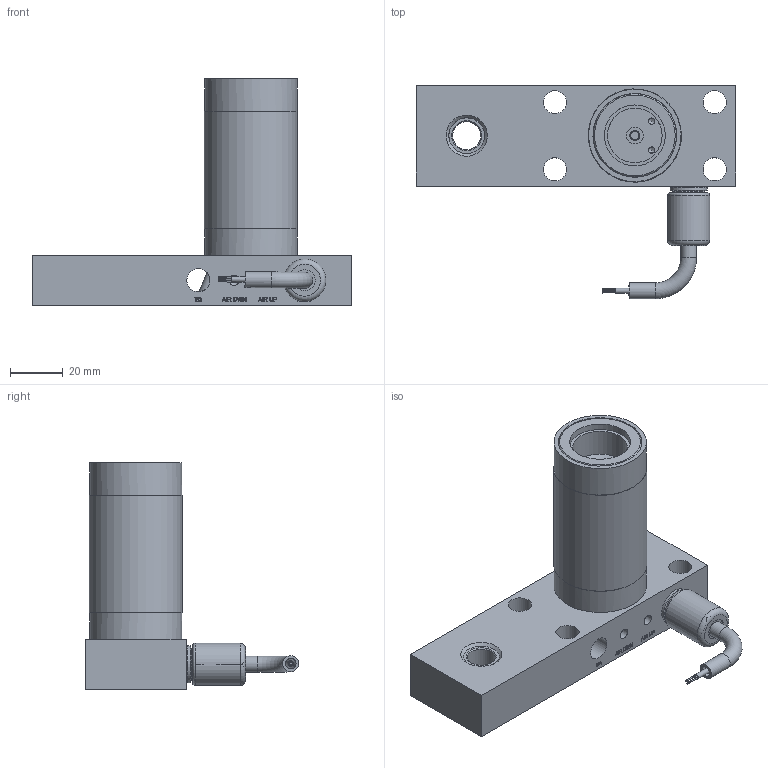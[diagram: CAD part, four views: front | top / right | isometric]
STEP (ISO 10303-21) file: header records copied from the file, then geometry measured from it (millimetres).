
FILE_DESCRIPTION(/* description */ ('ASSY,BODY,VF,LVDT,SXJR3,NHP'),/* implementation_level */ '2;1');
FILE_NAME(/* name */ 'C:\LVDT UPDATES\ASSY,BODY,VF,LVDT,SXJR3,NHP_0000843818.stp',/* time_stamp */ '2017-07-10T16:42:42-04:00',/* author */ ('tim.mcwilliams'),/* organization */ (''),/* preprocessor_version */ 'ST-DEVELOPER v16.5',/* originating_system */ 'Autodesk Inventor 2017',/* authorisation */ '');
FILE_SCHEMA (('AUTOMOTIVE_DESIGN { 1 0 10303 214 3 1 1 }'));
Products named in the file (1): ASSY,BODY,VF,LVDT,SXJR3,NHP
Bounding box: 120.65 x 80.63 x 85.72 mm (x, y, z)
Volume: 123928.8 mm3; surface area: 58161.9 mm2
Topology: 2 solids, 4 shells, 1253 faces, 3304 edges, 2182 vertices
Faces by surface type: plane 623, bspline 412, cylinder 148, cone 52, torus 18
Full cylindrical faces by diameter (mm): 0.5 x4, 0.55 x12, 2 x1, 2.381 x2, 3 x1, 3.15 x2, 3.175 x4, 3.2 x1, 3.81 x1, 3.962 x4, 4 x3, 4.763 x4, 6 x3, 6.35 x1, 7 x1, 8 x1, 8.731 x4, 8.738 x4, 10 x1, 10.592 x1, 12.01 x1, 12.141 x1, 12.7 x3, 13.665 x1, 13.716 x1, 14 x2, 15.206 x1, 16 x1, 20.637 x2, 23.019 x1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
Entity records: 94062 total; most frequent: CARTESIAN_POINT 64934, ORIENTED_EDGE 6218, DIRECTION 4469, EDGE_CURVE 3108, VERTEX_POINT 2118, LINE 1811, VECTOR 1811, EDGE_LOOP 1548
